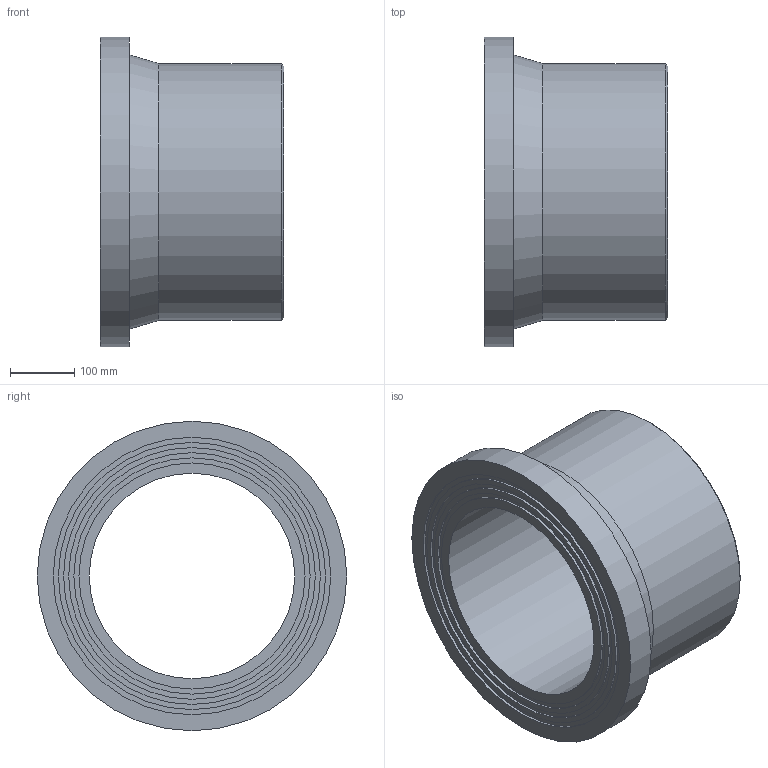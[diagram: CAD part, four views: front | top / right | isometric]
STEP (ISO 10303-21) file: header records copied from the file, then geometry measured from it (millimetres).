
FILE_DESCRIPTION(/* description */ ('Stub Flange 400'),/* implementation_level */ '2;1');
FILE_NAME(/* name */ 'C:\Dropbox\KIMPROJECTS-Inventor\99-16-3568-Processing\ElectroFusion Fittings\31.03.19\490207\490207400.ipt.stp',/* time_stamp */ '2019-03-31T18:57:56+03:00',/* author */ ('Кирилл'),/* organization */ (''),/* preprocessor_version */ 'ST-DEVELOPER v15.6',/* originating_system */ 'Autodesk Inventor 2015',/* authorisation */ '');
FILE_SCHEMA (('AUTOMOTIVE_DESIGN { 1 0 10303 214 3 1 1 }'));
Length unit declared in the file: millimetre
Products named in the file (1): 490207400
Bounding box: 286 x 482 x 482 mm (x, y, z)
Volume: 15765230.8 mm3; surface area: 876118.2 mm2
Topology: 1 solids, 1 shells, 20 faces, 31 edges, 20 vertices
Faces by surface type: cylinder 9, plane 9, cone 2
Full cylindrical faces by diameter (mm): 320 x1, 352 x1, 368 x1, 384 x1, 400 x2, 416 x1, 432 x1, 482 x1
Entity records: 432 total; most frequent: DIRECTION 82, CARTESIAN_POINT 61, AXIS2_PLACEMENT_3D 41, EDGE_LOOP 40, ORIENTED_EDGE 40, FACE_BOUND 20, FACE_OUTER_BOUND 20, CIRCLE 20
